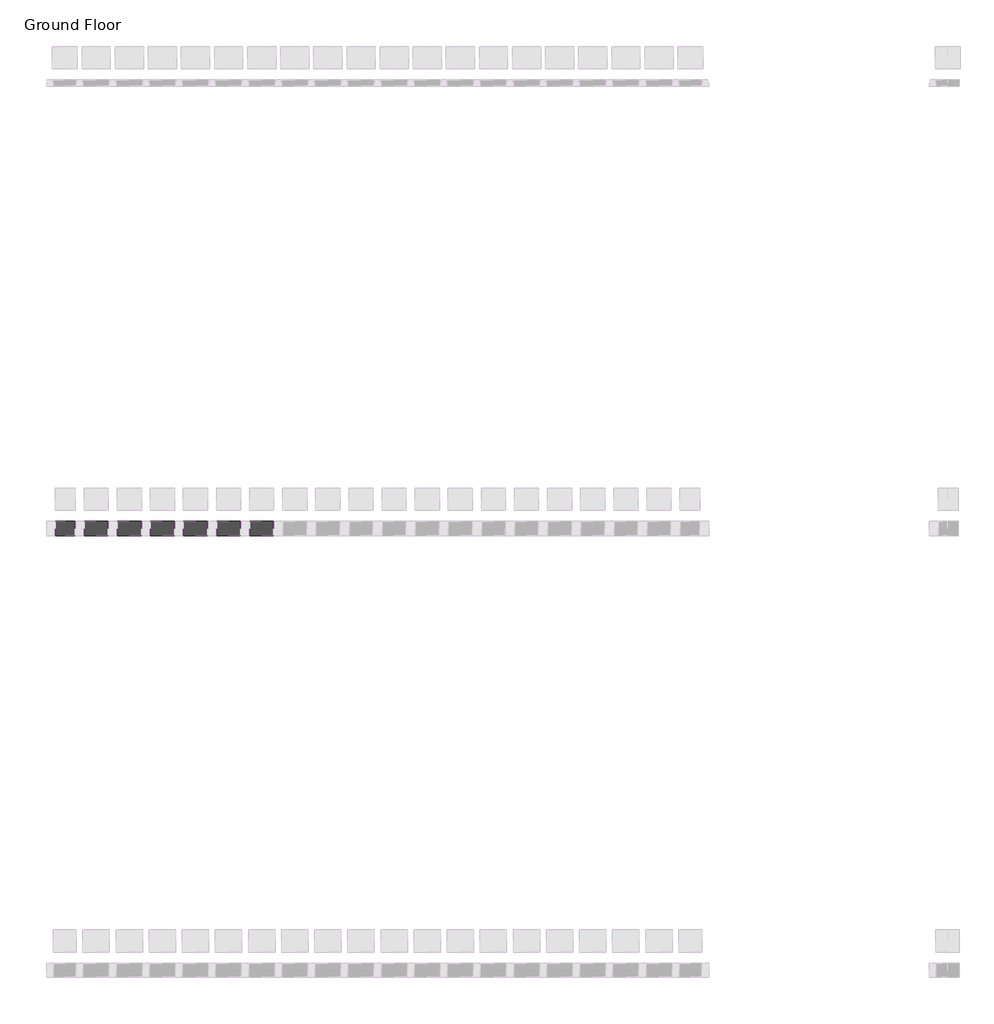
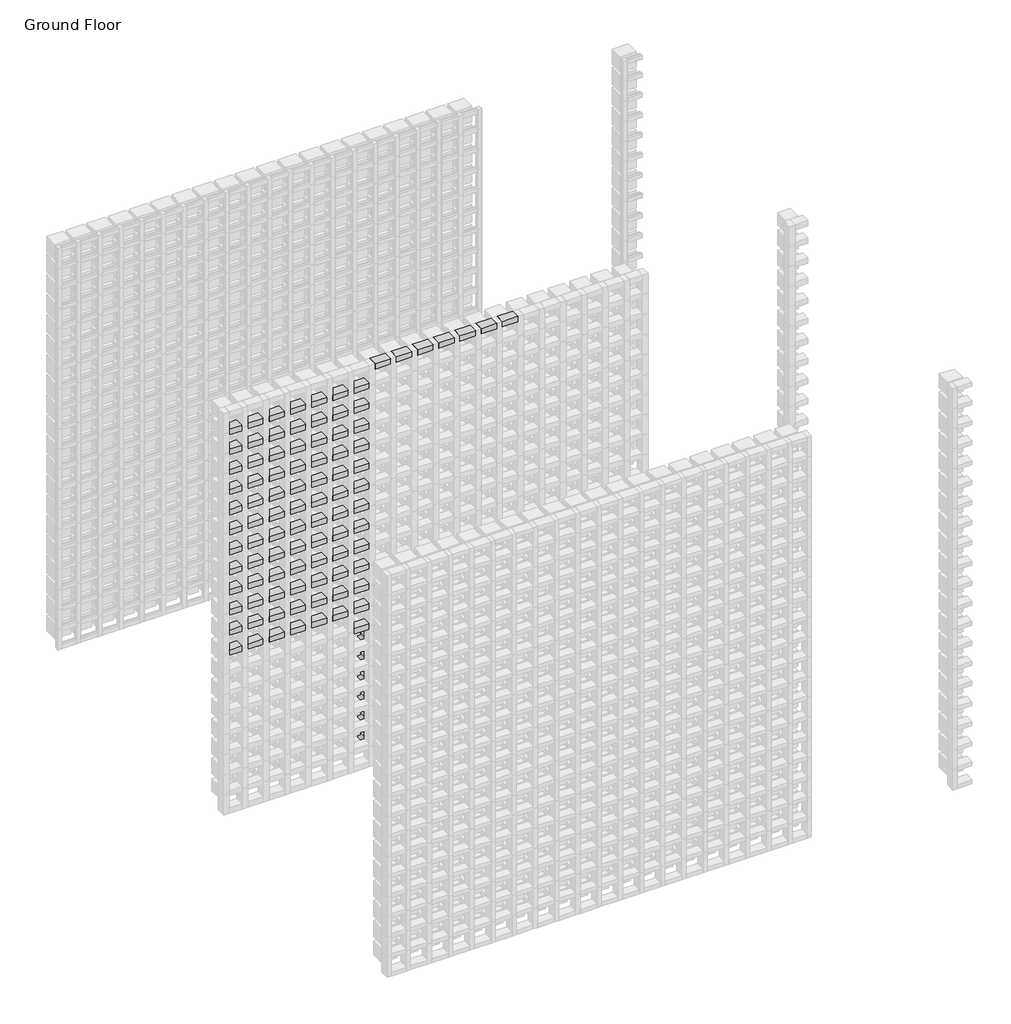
# One storey, part 82 of 350: 104 members, 38 plates.
"""IFC4 building model written with IfcOpenShell, lengths in millimetres."""

from ifc_helpers import new_model, si_unit, origin, place, context, project, spatial, transform, mapped, element, save
from components import rectangular_mullion_655930e9, rectangular_mullion_581565bb, rectangular_mullion_d5b82d3d, rectangular_mullion_0b6a8654, rectangular_mullion_97e353d0, empty_system_panel_empty_3b500fad, empty_system_panel_empty_1faefc6a

model = new_model("IFC4")

# Units and contexts
model_context = context("Model", 3, world=origin())
ifc_project = project(units=[si_unit("LENGTHUNIT", "METRE", prefix="MILLI")], contexts=[model_context])

# Site, building, storey
site = spatial("IfcSite", under=ifc_project)
building = spatial("IfcBuilding", under=site)
storey = spatial("IfcBuildingStorey", under=building, Name="Ground Floor", Elevation=0.0)

# Members
placement = place(None, origin())
rectangular_mullion_shape = rectangular_mullion_655930e9(model_context)
element("IfcMember", 1, ObjectType="Rectangular Mullion : Batten_Timber_Modinex_Austratus_Grid_Fascia_40x65_AlaskanYellowCedar", at=placement, inside=storey, context=model_context, shape_type="MappedRepresentation", body=[
    mapped(rectangular_mullion_shape, transform((3116.4361642, 40968.2978302, 0.0), x_axis=(1.0, 0.0, 0.0), y_axis=(0.0, -1.0, 0.0), z_axis=(0.0, 0.0, -1.0))),
])
element("IfcMember", 2, ObjectType="Rectangular Mullion : Batten_Timber_Modinex_Austratus_Grid_Fascia_40x65_AlaskanYellowCedar", at=placement, inside=storey, context=model_context, shape_type="MappedRepresentation", body=[
    mapped(rectangular_mullion_shape, transform((3266.4361642, 40968.2978302, 0.0), x_axis=(1.0, 0.0, 0.0), y_axis=(0.0, -1.0, 0.0), z_axis=(0.0, 0.0, -1.0))),
])
element("IfcMember", 3, ObjectType="Rectangular Mullion : Batten_Timber_Modinex_Austratus_Grid_Fascia_40x65_AlaskanYellowCedar", at=placement, inside=storey, context=model_context, shape_type="MappedRepresentation", body=[
    mapped(rectangular_mullion_shape, transform((3416.4361642, 40968.2978302, 0.0), x_axis=(1.0, 0.0, 0.0), y_axis=(0.0, -1.0, 0.0), z_axis=(0.0, 0.0, -1.0))),
])
element("IfcMember", 4, ObjectType="Rectangular Mullion : Batten_Timber_Modinex_Austratus_Grid_Fascia_40x65_AlaskanYellowCedar", at=placement, inside=storey, context=model_context, shape_type="MappedRepresentation", body=[
    mapped(rectangular_mullion_shape, transform((3566.4361642, 40968.2978302, 0.0), x_axis=(1.0, 0.0, 0.0), y_axis=(0.0, -1.0, 0.0), z_axis=(0.0, 0.0, -1.0))),
])
element("IfcMember", 5, ObjectType="Rectangular Mullion : Batten_Timber_Modinex_Austratus_Grid_Fascia_40x65_AlaskanYellowCedar", at=placement, inside=storey, context=model_context, shape_type="MappedRepresentation", body=[
    mapped(rectangular_mullion_shape, transform((3716.4361642, 40968.2978302, 0.0), x_axis=(1.0, 0.0, 0.0), y_axis=(0.0, -1.0, 0.0), z_axis=(0.0, 0.0, -1.0))),
])
element("IfcMember", 6, ObjectType="Rectangular Mullion : Batten_Timber_Modinex_Austratus_Grid_Fascia_40x65_AlaskanYellowCedar", at=placement, inside=storey, context=model_context, shape_type="MappedRepresentation", body=[
    mapped(rectangular_mullion_shape, transform((3866.4361642, 40968.2978302, 0.0), x_axis=(1.0, 0.0, 0.0), y_axis=(0.0, -1.0, 0.0), z_axis=(0.0, 0.0, -1.0))),
])
rectangular_mullion_2_shape = rectangular_mullion_581565bb(model_context)
element("IfcMember", 7, ObjectType="Rectangular Mullion : Batten_Timber_Modinex_Austratus_Grid_Fascia_40x65_AlaskanYellowCedar", at=placement, inside=storey, context=model_context, shape_type="MappedRepresentation", body=[
    mapped(rectangular_mullion_2_shape, transform((3096.4361642, 40968.2978302, 3000.0), x_axis=(0.0, 0.0, 1.0), y_axis=(0.0, -1.0, 0.0), z_axis=(1.0, 0.0, 0.0))),
])
element("IfcMember", 8, ObjectType="Rectangular Mullion : Batten_Timber_Modinex_Austratus_Grid_Fascia_40x65_AlaskanYellowCedar", at=placement, inside=storey, context=model_context, shape_type="MappedRepresentation", body=[
    mapped(rectangular_mullion_2_shape, transform((3246.4361642, 40968.2978302, 3000.0), x_axis=(0.0, 0.0, 1.0), y_axis=(0.0, -1.0, 0.0), z_axis=(1.0, 0.0, 0.0))),
])
element("IfcMember", 9, ObjectType="Rectangular Mullion : Batten_Timber_Modinex_Austratus_Grid_Fascia_40x65_AlaskanYellowCedar", at=placement, inside=storey, context=model_context, shape_type="MappedRepresentation", body=[
    mapped(rectangular_mullion_2_shape, transform((3396.4361642, 40968.2978302, 3000.0), x_axis=(0.0, 0.0, 1.0), y_axis=(0.0, -1.0, 0.0), z_axis=(1.0, 0.0, 0.0))),
])
element("IfcMember", 10, ObjectType="Rectangular Mullion : Batten_Timber_Modinex_Austratus_Grid_Fascia_40x65_AlaskanYellowCedar", at=placement, inside=storey, context=model_context, shape_type="MappedRepresentation", body=[
    mapped(rectangular_mullion_2_shape, transform((3546.4361642, 40968.2978302, 3000.0), x_axis=(0.0, 0.0, 1.0), y_axis=(0.0, -1.0, 0.0), z_axis=(1.0, 0.0, 0.0))),
])
element("IfcMember", 11, ObjectType="Rectangular Mullion : Batten_Timber_Modinex_Austratus_Grid_Fascia_40x65_AlaskanYellowCedar", at=placement, inside=storey, context=model_context, shape_type="MappedRepresentation", body=[
    mapped(rectangular_mullion_2_shape, transform((3696.4361642, 40968.2978302, 3000.0), x_axis=(0.0, 0.0, 1.0), y_axis=(0.0, -1.0, 0.0), z_axis=(1.0, 0.0, 0.0))),
])
element("IfcMember", 12, ObjectType="Rectangular Mullion : Batten_Timber_Modinex_Austratus_Grid_Fascia_40x65_AlaskanYellowCedar", at=placement, inside=storey, context=model_context, shape_type="MappedRepresentation", body=[
    mapped(rectangular_mullion_2_shape, transform((3846.4361642, 40968.2978302, 3000.0), x_axis=(0.0, 0.0, 1.0), y_axis=(0.0, -1.0, 0.0), z_axis=(1.0, 0.0, 0.0))),
])
element("IfcMember", 13, ObjectType="Rectangular Mullion : Batten_Timber_Modinex_Austratus_Grid_Fascia_40x65_AlaskanYellowCedar", at=placement, inside=storey, context=model_context, shape_type="MappedRepresentation", body=[
    mapped(rectangular_mullion_2_shape, transform((3996.4361642, 40968.2978302, 3000.0), x_axis=(0.0, 0.0, 1.0), y_axis=(0.0, -1.0, 0.0), z_axis=(1.0, 0.0, 0.0))),
])
rectangular_mullion_3_shape = rectangular_mullion_d5b82d3d(model_context)
element("IfcMember", 14, ObjectType="Rectangular Mullion : Batten_Timber_Modinex_Austratus_Grid_Fascia_40x65_AlaskanYellowCedar", at=placement, inside=storey, context=model_context, shape_type="MappedRepresentation", body=[
    mapped(rectangular_mullion_3_shape, transform((3136.4361642, 40968.2978302, 0.0), x_axis=(0.0, 0.0, -1.0), y_axis=(0.0, -1.0, 0.0), z_axis=(-1.0, 0.0, 0.0))),
])
element("IfcMember", 15, ObjectType="Rectangular Mullion : Batten_Timber_Modinex_Austratus_Grid_Fascia_40x65_AlaskanYellowCedar", at=placement, inside=storey, context=model_context, shape_type="MappedRepresentation", body=[
    mapped(rectangular_mullion_3_shape, transform((3286.4361642, 40968.2978302, 0.0), x_axis=(0.0, 0.0, -1.0), y_axis=(0.0, -1.0, 0.0), z_axis=(-1.0, 0.0, 0.0))),
])
element("IfcMember", 16, ObjectType="Rectangular Mullion : Batten_Timber_Modinex_Austratus_Grid_Fascia_40x65_AlaskanYellowCedar", at=placement, inside=storey, context=model_context, shape_type="MappedRepresentation", body=[
    mapped(rectangular_mullion_3_shape, transform((3436.4361642, 40968.2978302, 0.0), x_axis=(0.0, 0.0, -1.0), y_axis=(0.0, -1.0, 0.0), z_axis=(-1.0, 0.0, 0.0))),
])
element("IfcMember", 17, ObjectType="Rectangular Mullion : Batten_Timber_Modinex_Austratus_Grid_Fascia_40x65_AlaskanYellowCedar", at=placement, inside=storey, context=model_context, shape_type="MappedRepresentation", body=[
    mapped(rectangular_mullion_3_shape, transform((3586.4361642, 40968.2978302, 0.0), x_axis=(0.0, 0.0, -1.0), y_axis=(0.0, -1.0, 0.0), z_axis=(-1.0, 0.0, 0.0))),
])
element("IfcMember", 18, ObjectType="Rectangular Mullion : Batten_Timber_Modinex_Austratus_Grid_Fascia_40x65_AlaskanYellowCedar", at=placement, inside=storey, context=model_context, shape_type="MappedRepresentation", body=[
    mapped(rectangular_mullion_3_shape, transform((3736.4361642, 40968.2978302, 0.0), x_axis=(0.0, 0.0, -1.0), y_axis=(0.0, -1.0, 0.0), z_axis=(-1.0, 0.0, 0.0))),
])
element("IfcMember", 19, ObjectType="Rectangular Mullion : Batten_Timber_Modinex_Austratus_Grid_Fascia_40x65_AlaskanYellowCedar", at=placement, inside=storey, context=model_context, shape_type="MappedRepresentation", body=[
    mapped(rectangular_mullion_3_shape, transform((3886.4361642, 40968.2978302, 0.0), x_axis=(0.0, 0.0, -1.0), y_axis=(0.0, -1.0, 0.0), z_axis=(-1.0, 0.0, 0.0))),
])
rectangular_mullion_4_shape = rectangular_mullion_0b6a8654(model_context)
element("IfcMember", 20, ObjectType="Rectangular Mullion : Batten_Timber_Modinex_Austratus_Grid_Fascia_40x65_AlaskanYellowCedar", at=placement, inside=storey, context=model_context, shape_type="MappedRepresentation", body=[
    mapped(rectangular_mullion_4_shape, transform((2046.4361642, 40968.2978302, 1200.0), x_axis=(0.0, 0.0, 1.0), y_axis=(0.0, -1.0, 0.0), z_axis=(1.0, 0.0, 0.0))),
])
element("IfcMember", 21, ObjectType="Rectangular Mullion : Batten_Timber_Modinex_Austratus_Grid_Fascia_40x65_AlaskanYellowCedar", at=placement, inside=storey, context=model_context, shape_type="MappedRepresentation", body=[
    mapped(rectangular_mullion_4_shape, transform((2046.4361642, 40968.2978302, 1350.0), x_axis=(0.0, 0.0, 1.0), y_axis=(0.0, -1.0, 0.0), z_axis=(1.0, 0.0, 0.0))),
])
element("IfcMember", 22, ObjectType="Rectangular Mullion : Batten_Timber_Modinex_Austratus_Grid_Fascia_40x65_AlaskanYellowCedar", at=placement, inside=storey, context=model_context, shape_type="MappedRepresentation", body=[
    mapped(rectangular_mullion_4_shape, transform((2046.4361642, 40968.2978302, 1500.0), x_axis=(0.0, 0.0, 1.0), y_axis=(0.0, -1.0, 0.0), z_axis=(1.0, 0.0, 0.0))),
])
element("IfcMember", 23, ObjectType="Rectangular Mullion : Batten_Timber_Modinex_Austratus_Grid_Fascia_40x65_AlaskanYellowCedar", at=placement, inside=storey, context=model_context, shape_type="MappedRepresentation", body=[
    mapped(rectangular_mullion_4_shape, transform((2046.4361642, 40968.2978302, 1650.0), x_axis=(0.0, 0.0, 1.0), y_axis=(0.0, -1.0, 0.0), z_axis=(1.0, 0.0, 0.0))),
])
element("IfcMember", 24, ObjectType="Rectangular Mullion : Batten_Timber_Modinex_Austratus_Grid_Fascia_40x65_AlaskanYellowCedar", at=placement, inside=storey, context=model_context, shape_type="MappedRepresentation", body=[
    mapped(rectangular_mullion_4_shape, transform((2046.4361642, 40968.2978302, 1800.0), x_axis=(0.0, 0.0, 1.0), y_axis=(0.0, -1.0, 0.0), z_axis=(1.0, 0.0, 0.0))),
])
element("IfcMember", 25, ObjectType="Rectangular Mullion : Batten_Timber_Modinex_Austratus_Grid_Fascia_40x65_AlaskanYellowCedar", at=placement, inside=storey, context=model_context, shape_type="MappedRepresentation", body=[
    mapped(rectangular_mullion_4_shape, transform((2046.4361642, 40968.2978302, 1950.0), x_axis=(0.0, 0.0, 1.0), y_axis=(0.0, -1.0, 0.0), z_axis=(1.0, 0.0, 0.0))),
])
element("IfcMember", 26, ObjectType="Rectangular Mullion : Batten_Timber_Modinex_Austratus_Grid_Fascia_40x65_AlaskanYellowCedar", at=placement, inside=storey, context=model_context, shape_type="MappedRepresentation", body=[
    mapped(rectangular_mullion_4_shape, transform((2046.4361642, 40968.2978302, 2100.0), x_axis=(0.0, 0.0, 1.0), y_axis=(0.0, -1.0, 0.0), z_axis=(1.0, 0.0, 0.0))),
])
element("IfcMember", 27, ObjectType="Rectangular Mullion : Batten_Timber_Modinex_Austratus_Grid_Fascia_40x65_AlaskanYellowCedar", at=placement, inside=storey, context=model_context, shape_type="MappedRepresentation", body=[
    mapped(rectangular_mullion_4_shape, transform((2046.4361642, 40968.2978302, 2250.0), x_axis=(0.0, 0.0, 1.0), y_axis=(0.0, -1.0, 0.0), z_axis=(1.0, 0.0, 0.0))),
])
element("IfcMember", 28, ObjectType="Rectangular Mullion : Batten_Timber_Modinex_Austratus_Grid_Fascia_40x65_AlaskanYellowCedar", at=placement, inside=storey, context=model_context, shape_type="MappedRepresentation", body=[
    mapped(rectangular_mullion_4_shape, transform((2046.4361642, 40968.2978302, 2400.0), x_axis=(0.0, 0.0, 1.0), y_axis=(0.0, -1.0, 0.0), z_axis=(1.0, 0.0, 0.0))),
])
element("IfcMember", 29, ObjectType="Rectangular Mullion : Batten_Timber_Modinex_Austratus_Grid_Fascia_40x65_AlaskanYellowCedar", at=placement, inside=storey, context=model_context, shape_type="MappedRepresentation", body=[
    mapped(rectangular_mullion_4_shape, transform((2046.4361642, 40968.2978302, 2550.0), x_axis=(0.0, 0.0, 1.0), y_axis=(0.0, -1.0, 0.0), z_axis=(1.0, 0.0, 0.0))),
])
element("IfcMember", 30, ObjectType="Rectangular Mullion : Batten_Timber_Modinex_Austratus_Grid_Fascia_40x65_AlaskanYellowCedar", at=placement, inside=storey, context=model_context, shape_type="MappedRepresentation", body=[
    mapped(rectangular_mullion_4_shape, transform((2046.4361642, 40968.2978302, 2700.0), x_axis=(0.0, 0.0, 1.0), y_axis=(0.0, -1.0, 0.0), z_axis=(1.0, 0.0, 0.0))),
])
element("IfcMember", 31, ObjectType="Rectangular Mullion : Batten_Timber_Modinex_Austratus_Grid_Fascia_40x65_AlaskanYellowCedar", at=placement, inside=storey, context=model_context, shape_type="MappedRepresentation", body=[
    mapped(rectangular_mullion_4_shape, transform((2046.4361642, 40968.2978302, 2850.0), x_axis=(0.0, 0.0, 1.0), y_axis=(0.0, -1.0, 0.0), z_axis=(1.0, 0.0, 0.0))),
])
rectangular_mullion_5_shape = rectangular_mullion_97e353d0(model_context)
element("IfcMember", 32, ObjectType="Rectangular Mullion : Batten_Timber_Modinex_Austratus_Grid_Fascia_40x65_AlaskanYellowCedar", at=placement, inside=storey, context=model_context, shape_type="MappedRepresentation", body=[
    mapped(rectangular_mullion_5_shape, transform((2946.4361642, 40968.2978302, 1050.0), x_axis=(0.0, 0.0, 1.0), y_axis=(0.0, -1.0, 0.0), z_axis=(1.0, 0.0, 0.0))),
])
element("IfcMember", 33, ObjectType="Rectangular Mullion : Batten_Timber_Modinex_Austratus_Grid_Fascia_40x65_AlaskanYellowCedar", at=placement, inside=storey, context=model_context, shape_type="MappedRepresentation", body=[
    mapped(rectangular_mullion_5_shape, transform((2196.4361642, 40968.2978302, 1200.0), x_axis=(0.0, 0.0, 1.0), y_axis=(0.0, -1.0, 0.0), z_axis=(1.0, 0.0, 0.0))),
])
element("IfcMember", 34, ObjectType="Rectangular Mullion : Batten_Timber_Modinex_Austratus_Grid_Fascia_40x65_AlaskanYellowCedar", at=placement, inside=storey, context=model_context, shape_type="MappedRepresentation", body=[
    mapped(rectangular_mullion_5_shape, transform((2346.4361642, 40968.2978302, 1200.0), x_axis=(0.0, 0.0, 1.0), y_axis=(0.0, -1.0, 0.0), z_axis=(1.0, 0.0, 0.0))),
])
element("IfcMember", 35, ObjectType="Rectangular Mullion : Batten_Timber_Modinex_Austratus_Grid_Fascia_40x65_AlaskanYellowCedar", at=placement, inside=storey, context=model_context, shape_type="MappedRepresentation", body=[
    mapped(rectangular_mullion_5_shape, transform((2496.4361642, 40968.2978302, 1200.0), x_axis=(0.0, 0.0, 1.0), y_axis=(0.0, -1.0, 0.0), z_axis=(1.0, 0.0, 0.0))),
])
element("IfcMember", 36, ObjectType="Rectangular Mullion : Batten_Timber_Modinex_Austratus_Grid_Fascia_40x65_AlaskanYellowCedar", at=placement, inside=storey, context=model_context, shape_type="MappedRepresentation", body=[
    mapped(rectangular_mullion_5_shape, transform((2646.4361642, 40968.2978302, 1200.0), x_axis=(0.0, 0.0, 1.0), y_axis=(0.0, -1.0, 0.0), z_axis=(1.0, 0.0, 0.0))),
])
element("IfcMember", 37, ObjectType="Rectangular Mullion : Batten_Timber_Modinex_Austratus_Grid_Fascia_40x65_AlaskanYellowCedar", at=placement, inside=storey, context=model_context, shape_type="MappedRepresentation", body=[
    mapped(rectangular_mullion_5_shape, transform((2796.4361642, 40968.2978302, 1200.0), x_axis=(0.0, 0.0, 1.0), y_axis=(0.0, -1.0, 0.0), z_axis=(1.0, 0.0, 0.0))),
])
element("IfcMember", 38, ObjectType="Rectangular Mullion : Batten_Timber_Modinex_Austratus_Grid_Fascia_40x65_AlaskanYellowCedar", at=placement, inside=storey, context=model_context, shape_type="MappedRepresentation", body=[
    mapped(rectangular_mullion_5_shape, transform((2946.4361642, 40968.2978302, 1200.0), x_axis=(0.0, 0.0, 1.0), y_axis=(0.0, -1.0, 0.0), z_axis=(1.0, 0.0, 0.0))),
])
element("IfcMember", 39, ObjectType="Rectangular Mullion : Batten_Timber_Modinex_Austratus_Grid_Fascia_40x65_AlaskanYellowCedar", at=placement, inside=storey, context=model_context, shape_type="MappedRepresentation", body=[
    mapped(rectangular_mullion_5_shape, transform((2196.4361642, 40968.2978302, 1350.0), x_axis=(0.0, 0.0, 1.0), y_axis=(0.0, -1.0, 0.0), z_axis=(1.0, 0.0, 0.0))),
])
element("IfcMember", 40, ObjectType="Rectangular Mullion : Batten_Timber_Modinex_Austratus_Grid_Fascia_40x65_AlaskanYellowCedar", at=placement, inside=storey, context=model_context, shape_type="MappedRepresentation", body=[
    mapped(rectangular_mullion_5_shape, transform((2346.4361642, 40968.2978302, 1350.0), x_axis=(0.0, 0.0, 1.0), y_axis=(0.0, -1.0, 0.0), z_axis=(1.0, 0.0, 0.0))),
])
element("IfcMember", 41, ObjectType="Rectangular Mullion : Batten_Timber_Modinex_Austratus_Grid_Fascia_40x65_AlaskanYellowCedar", at=placement, inside=storey, context=model_context, shape_type="MappedRepresentation", body=[
    mapped(rectangular_mullion_5_shape, transform((2496.4361642, 40968.2978302, 1350.0), x_axis=(0.0, 0.0, 1.0), y_axis=(0.0, -1.0, 0.0), z_axis=(1.0, 0.0, 0.0))),
])
element("IfcMember", 42, ObjectType="Rectangular Mullion : Batten_Timber_Modinex_Austratus_Grid_Fascia_40x65_AlaskanYellowCedar", at=placement, inside=storey, context=model_context, shape_type="MappedRepresentation", body=[
    mapped(rectangular_mullion_5_shape, transform((2646.4361642, 40968.2978302, 1350.0), x_axis=(0.0, 0.0, 1.0), y_axis=(0.0, -1.0, 0.0), z_axis=(1.0, 0.0, 0.0))),
])
element("IfcMember", 43, ObjectType="Rectangular Mullion : Batten_Timber_Modinex_Austratus_Grid_Fascia_40x65_AlaskanYellowCedar", at=placement, inside=storey, context=model_context, shape_type="MappedRepresentation", body=[
    mapped(rectangular_mullion_5_shape, transform((2796.4361642, 40968.2978302, 1350.0), x_axis=(0.0, 0.0, 1.0), y_axis=(0.0, -1.0, 0.0), z_axis=(1.0, 0.0, 0.0))),
])
element("IfcMember", 44, ObjectType="Rectangular Mullion : Batten_Timber_Modinex_Austratus_Grid_Fascia_40x65_AlaskanYellowCedar", at=placement, inside=storey, context=model_context, shape_type="MappedRepresentation", body=[
    mapped(rectangular_mullion_5_shape, transform((2946.4361642, 40968.2978302, 1350.0), x_axis=(0.0, 0.0, 1.0), y_axis=(0.0, -1.0, 0.0), z_axis=(1.0, 0.0, 0.0))),
])
element("IfcMember", 45, ObjectType="Rectangular Mullion : Batten_Timber_Modinex_Austratus_Grid_Fascia_40x65_AlaskanYellowCedar", at=placement, inside=storey, context=model_context, shape_type="MappedRepresentation", body=[
    mapped(rectangular_mullion_5_shape, transform((2196.4361642, 40968.2978302, 1500.0), x_axis=(0.0, 0.0, 1.0), y_axis=(0.0, -1.0, 0.0), z_axis=(1.0, 0.0, 0.0))),
])
element("IfcMember", 46, ObjectType="Rectangular Mullion : Batten_Timber_Modinex_Austratus_Grid_Fascia_40x65_AlaskanYellowCedar", at=placement, inside=storey, context=model_context, shape_type="MappedRepresentation", body=[
    mapped(rectangular_mullion_5_shape, transform((2346.4361642, 40968.2978302, 1500.0), x_axis=(0.0, 0.0, 1.0), y_axis=(0.0, -1.0, 0.0), z_axis=(1.0, 0.0, 0.0))),
])
element("IfcMember", 47, ObjectType="Rectangular Mullion : Batten_Timber_Modinex_Austratus_Grid_Fascia_40x65_AlaskanYellowCedar", at=placement, inside=storey, context=model_context, shape_type="MappedRepresentation", body=[
    mapped(rectangular_mullion_5_shape, transform((2496.4361642, 40968.2978302, 1500.0), x_axis=(0.0, 0.0, 1.0), y_axis=(0.0, -1.0, 0.0), z_axis=(1.0, 0.0, 0.0))),
])
element("IfcMember", 48, ObjectType="Rectangular Mullion : Batten_Timber_Modinex_Austratus_Grid_Fascia_40x65_AlaskanYellowCedar", at=placement, inside=storey, context=model_context, shape_type="MappedRepresentation", body=[
    mapped(rectangular_mullion_5_shape, transform((2646.4361642, 40968.2978302, 1500.0), x_axis=(0.0, 0.0, 1.0), y_axis=(0.0, -1.0, 0.0), z_axis=(1.0, 0.0, 0.0))),
])
element("IfcMember", 49, ObjectType="Rectangular Mullion : Batten_Timber_Modinex_Austratus_Grid_Fascia_40x65_AlaskanYellowCedar", at=placement, inside=storey, context=model_context, shape_type="MappedRepresentation", body=[
    mapped(rectangular_mullion_5_shape, transform((2796.4361642, 40968.2978302, 1500.0), x_axis=(0.0, 0.0, 1.0), y_axis=(0.0, -1.0, 0.0), z_axis=(1.0, 0.0, 0.0))),
])
element("IfcMember", 50, ObjectType="Rectangular Mullion : Batten_Timber_Modinex_Austratus_Grid_Fascia_40x65_AlaskanYellowCedar", at=placement, inside=storey, context=model_context, shape_type="MappedRepresentation", body=[
    mapped(rectangular_mullion_5_shape, transform((2946.4361642, 40968.2978302, 1500.0), x_axis=(0.0, 0.0, 1.0), y_axis=(0.0, -1.0, 0.0), z_axis=(1.0, 0.0, 0.0))),
])
element("IfcMember", 51, ObjectType="Rectangular Mullion : Batten_Timber_Modinex_Austratus_Grid_Fascia_40x65_AlaskanYellowCedar", at=placement, inside=storey, context=model_context, shape_type="MappedRepresentation", body=[
    mapped(rectangular_mullion_5_shape, transform((2196.4361642, 40968.2978302, 1650.0), x_axis=(0.0, 0.0, 1.0), y_axis=(0.0, -1.0, 0.0), z_axis=(1.0, 0.0, 0.0))),
])
element("IfcMember", 52, ObjectType="Rectangular Mullion : Batten_Timber_Modinex_Austratus_Grid_Fascia_40x65_AlaskanYellowCedar", at=placement, inside=storey, context=model_context, shape_type="MappedRepresentation", body=[
    mapped(rectangular_mullion_5_shape, transform((2346.4361642, 40968.2978302, 1650.0), x_axis=(0.0, 0.0, 1.0), y_axis=(0.0, -1.0, 0.0), z_axis=(1.0, 0.0, 0.0))),
])
element("IfcMember", 53, ObjectType="Rectangular Mullion : Batten_Timber_Modinex_Austratus_Grid_Fascia_40x65_AlaskanYellowCedar", at=placement, inside=storey, context=model_context, shape_type="MappedRepresentation", body=[
    mapped(rectangular_mullion_5_shape, transform((2496.4361642, 40968.2978302, 1650.0), x_axis=(0.0, 0.0, 1.0), y_axis=(0.0, -1.0, 0.0), z_axis=(1.0, 0.0, 0.0))),
])
element("IfcMember", 54, ObjectType="Rectangular Mullion : Batten_Timber_Modinex_Austratus_Grid_Fascia_40x65_AlaskanYellowCedar", at=placement, inside=storey, context=model_context, shape_type="MappedRepresentation", body=[
    mapped(rectangular_mullion_5_shape, transform((2646.4361642, 40968.2978302, 1650.0), x_axis=(0.0, 0.0, 1.0), y_axis=(0.0, -1.0, 0.0), z_axis=(1.0, 0.0, 0.0))),
])
element("IfcMember", 55, ObjectType="Rectangular Mullion : Batten_Timber_Modinex_Austratus_Grid_Fascia_40x65_AlaskanYellowCedar", at=placement, inside=storey, context=model_context, shape_type="MappedRepresentation", body=[
    mapped(rectangular_mullion_5_shape, transform((2796.4361642, 40968.2978302, 1650.0), x_axis=(0.0, 0.0, 1.0), y_axis=(0.0, -1.0, 0.0), z_axis=(1.0, 0.0, 0.0))),
])
element("IfcMember", 56, ObjectType="Rectangular Mullion : Batten_Timber_Modinex_Austratus_Grid_Fascia_40x65_AlaskanYellowCedar", at=placement, inside=storey, context=model_context, shape_type="MappedRepresentation", body=[
    mapped(rectangular_mullion_5_shape, transform((2946.4361642, 40968.2978302, 1650.0), x_axis=(0.0, 0.0, 1.0), y_axis=(0.0, -1.0, 0.0), z_axis=(1.0, 0.0, 0.0))),
])
element("IfcMember", 57, ObjectType="Rectangular Mullion : Batten_Timber_Modinex_Austratus_Grid_Fascia_40x65_AlaskanYellowCedar", at=placement, inside=storey, context=model_context, shape_type="MappedRepresentation", body=[
    mapped(rectangular_mullion_5_shape, transform((2196.4361642, 40968.2978302, 1800.0), x_axis=(0.0, 0.0, 1.0), y_axis=(0.0, -1.0, 0.0), z_axis=(1.0, 0.0, 0.0))),
])
element("IfcMember", 58, ObjectType="Rectangular Mullion : Batten_Timber_Modinex_Austratus_Grid_Fascia_40x65_AlaskanYellowCedar", at=placement, inside=storey, context=model_context, shape_type="MappedRepresentation", body=[
    mapped(rectangular_mullion_5_shape, transform((2346.4361642, 40968.2978302, 1800.0), x_axis=(0.0, 0.0, 1.0), y_axis=(0.0, -1.0, 0.0), z_axis=(1.0, 0.0, 0.0))),
])
element("IfcMember", 59, ObjectType="Rectangular Mullion : Batten_Timber_Modinex_Austratus_Grid_Fascia_40x65_AlaskanYellowCedar", at=placement, inside=storey, context=model_context, shape_type="MappedRepresentation", body=[
    mapped(rectangular_mullion_5_shape, transform((2496.4361642, 40968.2978302, 1800.0), x_axis=(0.0, 0.0, 1.0), y_axis=(0.0, -1.0, 0.0), z_axis=(1.0, 0.0, 0.0))),
])
element("IfcMember", 60, ObjectType="Rectangular Mullion : Batten_Timber_Modinex_Austratus_Grid_Fascia_40x65_AlaskanYellowCedar", at=placement, inside=storey, context=model_context, shape_type="MappedRepresentation", body=[
    mapped(rectangular_mullion_5_shape, transform((2646.4361642, 40968.2978302, 1800.0), x_axis=(0.0, 0.0, 1.0), y_axis=(0.0, -1.0, 0.0), z_axis=(1.0, 0.0, 0.0))),
])
element("IfcMember", 61, ObjectType="Rectangular Mullion : Batten_Timber_Modinex_Austratus_Grid_Fascia_40x65_AlaskanYellowCedar", at=placement, inside=storey, context=model_context, shape_type="MappedRepresentation", body=[
    mapped(rectangular_mullion_5_shape, transform((2796.4361642, 40968.2978302, 1800.0), x_axis=(0.0, 0.0, 1.0), y_axis=(0.0, -1.0, 0.0), z_axis=(1.0, 0.0, 0.0))),
])
element("IfcMember", 62, ObjectType="Rectangular Mullion : Batten_Timber_Modinex_Austratus_Grid_Fascia_40x65_AlaskanYellowCedar", at=placement, inside=storey, context=model_context, shape_type="MappedRepresentation", body=[
    mapped(rectangular_mullion_5_shape, transform((2946.4361642, 40968.2978302, 1800.0), x_axis=(0.0, 0.0, 1.0), y_axis=(0.0, -1.0, 0.0), z_axis=(1.0, 0.0, 0.0))),
])
element("IfcMember", 63, ObjectType="Rectangular Mullion : Batten_Timber_Modinex_Austratus_Grid_Fascia_40x65_AlaskanYellowCedar", at=placement, inside=storey, context=model_context, shape_type="MappedRepresentation", body=[
    mapped(rectangular_mullion_5_shape, transform((2196.4361642, 40968.2978302, 1950.0), x_axis=(0.0, 0.0, 1.0), y_axis=(0.0, -1.0, 0.0), z_axis=(1.0, 0.0, 0.0))),
])
element("IfcMember", 64, ObjectType="Rectangular Mullion : Batten_Timber_Modinex_Austratus_Grid_Fascia_40x65_AlaskanYellowCedar", at=placement, inside=storey, context=model_context, shape_type="MappedRepresentation", body=[
    mapped(rectangular_mullion_5_shape, transform((2346.4361642, 40968.2978302, 1950.0), x_axis=(0.0, 0.0, 1.0), y_axis=(0.0, -1.0, 0.0), z_axis=(1.0, 0.0, 0.0))),
])
element("IfcMember", 65, ObjectType="Rectangular Mullion : Batten_Timber_Modinex_Austratus_Grid_Fascia_40x65_AlaskanYellowCedar", at=placement, inside=storey, context=model_context, shape_type="MappedRepresentation", body=[
    mapped(rectangular_mullion_5_shape, transform((2496.4361642, 40968.2978302, 1950.0), x_axis=(0.0, 0.0, 1.0), y_axis=(0.0, -1.0, 0.0), z_axis=(1.0, 0.0, 0.0))),
])
element("IfcMember", 66, ObjectType="Rectangular Mullion : Batten_Timber_Modinex_Austratus_Grid_Fascia_40x65_AlaskanYellowCedar", at=placement, inside=storey, context=model_context, shape_type="MappedRepresentation", body=[
    mapped(rectangular_mullion_5_shape, transform((2646.4361642, 40968.2978302, 1950.0), x_axis=(0.0, 0.0, 1.0), y_axis=(0.0, -1.0, 0.0), z_axis=(1.0, 0.0, 0.0))),
])
element("IfcMember", 67, ObjectType="Rectangular Mullion : Batten_Timber_Modinex_Austratus_Grid_Fascia_40x65_AlaskanYellowCedar", at=placement, inside=storey, context=model_context, shape_type="MappedRepresentation", body=[
    mapped(rectangular_mullion_5_shape, transform((2796.4361642, 40968.2978302, 1950.0), x_axis=(0.0, 0.0, 1.0), y_axis=(0.0, -1.0, 0.0), z_axis=(1.0, 0.0, 0.0))),
])
element("IfcMember", 68, ObjectType="Rectangular Mullion : Batten_Timber_Modinex_Austratus_Grid_Fascia_40x65_AlaskanYellowCedar", at=placement, inside=storey, context=model_context, shape_type="MappedRepresentation", body=[
    mapped(rectangular_mullion_5_shape, transform((2946.4361642, 40968.2978302, 1950.0), x_axis=(0.0, 0.0, 1.0), y_axis=(0.0, -1.0, 0.0), z_axis=(1.0, 0.0, 0.0))),
])
element("IfcMember", 69, ObjectType="Rectangular Mullion : Batten_Timber_Modinex_Austratus_Grid_Fascia_40x65_AlaskanYellowCedar", at=placement, inside=storey, context=model_context, shape_type="MappedRepresentation", body=[
    mapped(rectangular_mullion_5_shape, transform((2196.4361642, 40968.2978302, 2100.0), x_axis=(0.0, 0.0, 1.0), y_axis=(0.0, -1.0, 0.0), z_axis=(1.0, 0.0, 0.0))),
])
element("IfcMember", 70, ObjectType="Rectangular Mullion : Batten_Timber_Modinex_Austratus_Grid_Fascia_40x65_AlaskanYellowCedar", at=placement, inside=storey, context=model_context, shape_type="MappedRepresentation", body=[
    mapped(rectangular_mullion_5_shape, transform((2346.4361642, 40968.2978302, 2100.0), x_axis=(0.0, 0.0, 1.0), y_axis=(0.0, -1.0, 0.0), z_axis=(1.0, 0.0, 0.0))),
])
element("IfcMember", 71, ObjectType="Rectangular Mullion : Batten_Timber_Modinex_Austratus_Grid_Fascia_40x65_AlaskanYellowCedar", at=placement, inside=storey, context=model_context, shape_type="MappedRepresentation", body=[
    mapped(rectangular_mullion_5_shape, transform((2496.4361642, 40968.2978302, 2100.0), x_axis=(0.0, 0.0, 1.0), y_axis=(0.0, -1.0, 0.0), z_axis=(1.0, 0.0, 0.0))),
])
element("IfcMember", 72, ObjectType="Rectangular Mullion : Batten_Timber_Modinex_Austratus_Grid_Fascia_40x65_AlaskanYellowCedar", at=placement, inside=storey, context=model_context, shape_type="MappedRepresentation", body=[
    mapped(rectangular_mullion_5_shape, transform((2646.4361642, 40968.2978302, 2100.0), x_axis=(0.0, 0.0, 1.0), y_axis=(0.0, -1.0, 0.0), z_axis=(1.0, 0.0, 0.0))),
])
element("IfcMember", 73, ObjectType="Rectangular Mullion : Batten_Timber_Modinex_Austratus_Grid_Fascia_40x65_AlaskanYellowCedar", at=placement, inside=storey, context=model_context, shape_type="MappedRepresentation", body=[
    mapped(rectangular_mullion_5_shape, transform((2796.4361642, 40968.2978302, 2100.0), x_axis=(0.0, 0.0, 1.0), y_axis=(0.0, -1.0, 0.0), z_axis=(1.0, 0.0, 0.0))),
])
element("IfcMember", 74, ObjectType="Rectangular Mullion : Batten_Timber_Modinex_Austratus_Grid_Fascia_40x65_AlaskanYellowCedar", at=placement, inside=storey, context=model_context, shape_type="MappedRepresentation", body=[
    mapped(rectangular_mullion_5_shape, transform((2946.4361642, 40968.2978302, 2100.0), x_axis=(0.0, 0.0, 1.0), y_axis=(0.0, -1.0, 0.0), z_axis=(1.0, 0.0, 0.0))),
])
element("IfcMember", 75, ObjectType="Rectangular Mullion : Batten_Timber_Modinex_Austratus_Grid_Fascia_40x65_AlaskanYellowCedar", at=placement, inside=storey, context=model_context, shape_type="MappedRepresentation", body=[
    mapped(rectangular_mullion_5_shape, transform((2196.4361642, 40968.2978302, 2250.0), x_axis=(0.0, 0.0, 1.0), y_axis=(0.0, -1.0, 0.0), z_axis=(1.0, 0.0, 0.0))),
])
element("IfcMember", 76, ObjectType="Rectangular Mullion : Batten_Timber_Modinex_Austratus_Grid_Fascia_40x65_AlaskanYellowCedar", at=placement, inside=storey, context=model_context, shape_type="MappedRepresentation", body=[
    mapped(rectangular_mullion_5_shape, transform((2346.4361642, 40968.2978302, 2250.0), x_axis=(0.0, 0.0, 1.0), y_axis=(0.0, -1.0, 0.0), z_axis=(1.0, 0.0, 0.0))),
])
element("IfcMember", 77, ObjectType="Rectangular Mullion : Batten_Timber_Modinex_Austratus_Grid_Fascia_40x65_AlaskanYellowCedar", at=placement, inside=storey, context=model_context, shape_type="MappedRepresentation", body=[
    mapped(rectangular_mullion_5_shape, transform((2496.4361642, 40968.2978302, 2250.0), x_axis=(0.0, 0.0, 1.0), y_axis=(0.0, -1.0, 0.0), z_axis=(1.0, 0.0, 0.0))),
])
element("IfcMember", 78, ObjectType="Rectangular Mullion : Batten_Timber_Modinex_Austratus_Grid_Fascia_40x65_AlaskanYellowCedar", at=placement, inside=storey, context=model_context, shape_type="MappedRepresentation", body=[
    mapped(rectangular_mullion_5_shape, transform((2646.4361642, 40968.2978302, 2250.0), x_axis=(0.0, 0.0, 1.0), y_axis=(0.0, -1.0, 0.0), z_axis=(1.0, 0.0, 0.0))),
])
element("IfcMember", 79, ObjectType="Rectangular Mullion : Batten_Timber_Modinex_Austratus_Grid_Fascia_40x65_AlaskanYellowCedar", at=placement, inside=storey, context=model_context, shape_type="MappedRepresentation", body=[
    mapped(rectangular_mullion_5_shape, transform((2796.4361642, 40968.2978302, 2250.0), x_axis=(0.0, 0.0, 1.0), y_axis=(0.0, -1.0, 0.0), z_axis=(1.0, 0.0, 0.0))),
])
element("IfcMember", 80, ObjectType="Rectangular Mullion : Batten_Timber_Modinex_Austratus_Grid_Fascia_40x65_AlaskanYellowCedar", at=placement, inside=storey, context=model_context, shape_type="MappedRepresentation", body=[
    mapped(rectangular_mullion_5_shape, transform((2946.4361642, 40968.2978302, 2250.0), x_axis=(0.0, 0.0, 1.0), y_axis=(0.0, -1.0, 0.0), z_axis=(1.0, 0.0, 0.0))),
])
element("IfcMember", 81, ObjectType="Rectangular Mullion : Batten_Timber_Modinex_Austratus_Grid_Fascia_40x65_AlaskanYellowCedar", at=placement, inside=storey, context=model_context, shape_type="MappedRepresentation", body=[
    mapped(rectangular_mullion_5_shape, transform((2196.4361642, 40968.2978302, 2400.0), x_axis=(0.0, 0.0, 1.0), y_axis=(0.0, -1.0, 0.0), z_axis=(1.0, 0.0, 0.0))),
])
element("IfcMember", 82, ObjectType="Rectangular Mullion : Batten_Timber_Modinex_Austratus_Grid_Fascia_40x65_AlaskanYellowCedar", at=placement, inside=storey, context=model_context, shape_type="MappedRepresentation", body=[
    mapped(rectangular_mullion_5_shape, transform((2346.4361642, 40968.2978302, 2400.0), x_axis=(0.0, 0.0, 1.0), y_axis=(0.0, -1.0, 0.0), z_axis=(1.0, 0.0, 0.0))),
])
element("IfcMember", 83, ObjectType="Rectangular Mullion : Batten_Timber_Modinex_Austratus_Grid_Fascia_40x65_AlaskanYellowCedar", at=placement, inside=storey, context=model_context, shape_type="MappedRepresentation", body=[
    mapped(rectangular_mullion_5_shape, transform((2496.4361642, 40968.2978302, 2400.0), x_axis=(0.0, 0.0, 1.0), y_axis=(0.0, -1.0, 0.0), z_axis=(1.0, 0.0, 0.0))),
])
element("IfcMember", 84, ObjectType="Rectangular Mullion : Batten_Timber_Modinex_Austratus_Grid_Fascia_40x65_AlaskanYellowCedar", at=placement, inside=storey, context=model_context, shape_type="MappedRepresentation", body=[
    mapped(rectangular_mullion_5_shape, transform((2646.4361642, 40968.2978302, 2400.0), x_axis=(0.0, 0.0, 1.0), y_axis=(0.0, -1.0, 0.0), z_axis=(1.0, 0.0, 0.0))),
])
element("IfcMember", 85, ObjectType="Rectangular Mullion : Batten_Timber_Modinex_Austratus_Grid_Fascia_40x65_AlaskanYellowCedar", at=placement, inside=storey, context=model_context, shape_type="MappedRepresentation", body=[
    mapped(rectangular_mullion_5_shape, transform((2796.4361642, 40968.2978302, 2400.0), x_axis=(0.0, 0.0, 1.0), y_axis=(0.0, -1.0, 0.0), z_axis=(1.0, 0.0, 0.0))),
])
element("IfcMember", 86, ObjectType="Rectangular Mullion : Batten_Timber_Modinex_Austratus_Grid_Fascia_40x65_AlaskanYellowCedar", at=placement, inside=storey, context=model_context, shape_type="MappedRepresentation", body=[
    mapped(rectangular_mullion_5_shape, transform((2946.4361642, 40968.2978302, 2400.0), x_axis=(0.0, 0.0, 1.0), y_axis=(0.0, -1.0, 0.0), z_axis=(1.0, 0.0, 0.0))),
])
element("IfcMember", 87, ObjectType="Rectangular Mullion : Batten_Timber_Modinex_Austratus_Grid_Fascia_40x65_AlaskanYellowCedar", at=placement, inside=storey, context=model_context, shape_type="MappedRepresentation", body=[
    mapped(rectangular_mullion_5_shape, transform((2196.4361642, 40968.2978302, 2550.0), x_axis=(0.0, 0.0, 1.0), y_axis=(0.0, -1.0, 0.0), z_axis=(1.0, 0.0, 0.0))),
])
element("IfcMember", 88, ObjectType="Rectangular Mullion : Batten_Timber_Modinex_Austratus_Grid_Fascia_40x65_AlaskanYellowCedar", at=placement, inside=storey, context=model_context, shape_type="MappedRepresentation", body=[
    mapped(rectangular_mullion_5_shape, transform((2346.4361642, 40968.2978302, 2550.0), x_axis=(0.0, 0.0, 1.0), y_axis=(0.0, -1.0, 0.0), z_axis=(1.0, 0.0, 0.0))),
])
element("IfcMember", 89, ObjectType="Rectangular Mullion : Batten_Timber_Modinex_Austratus_Grid_Fascia_40x65_AlaskanYellowCedar", at=placement, inside=storey, context=model_context, shape_type="MappedRepresentation", body=[
    mapped(rectangular_mullion_5_shape, transform((2496.4361642, 40968.2978302, 2550.0), x_axis=(0.0, 0.0, 1.0), y_axis=(0.0, -1.0, 0.0), z_axis=(1.0, 0.0, 0.0))),
])
element("IfcMember", 90, ObjectType="Rectangular Mullion : Batten_Timber_Modinex_Austratus_Grid_Fascia_40x65_AlaskanYellowCedar", at=placement, inside=storey, context=model_context, shape_type="MappedRepresentation", body=[
    mapped(rectangular_mullion_5_shape, transform((2646.4361642, 40968.2978302, 2550.0), x_axis=(0.0, 0.0, 1.0), y_axis=(0.0, -1.0, 0.0), z_axis=(1.0, 0.0, 0.0))),
])
element("IfcMember", 91, ObjectType="Rectangular Mullion : Batten_Timber_Modinex_Austratus_Grid_Fascia_40x65_AlaskanYellowCedar", at=placement, inside=storey, context=model_context, shape_type="MappedRepresentation", body=[
    mapped(rectangular_mullion_5_shape, transform((2796.4361642, 40968.2978302, 2550.0), x_axis=(0.0, 0.0, 1.0), y_axis=(0.0, -1.0, 0.0), z_axis=(1.0, 0.0, 0.0))),
])
element("IfcMember", 92, ObjectType="Rectangular Mullion : Batten_Timber_Modinex_Austratus_Grid_Fascia_40x65_AlaskanYellowCedar", at=placement, inside=storey, context=model_context, shape_type="MappedRepresentation", body=[
    mapped(rectangular_mullion_5_shape, transform((2946.4361642, 40968.2978302, 2550.0), x_axis=(0.0, 0.0, 1.0), y_axis=(0.0, -1.0, 0.0), z_axis=(1.0, 0.0, 0.0))),
])
element("IfcMember", 93, ObjectType="Rectangular Mullion : Batten_Timber_Modinex_Austratus_Grid_Fascia_40x65_AlaskanYellowCedar", at=placement, inside=storey, context=model_context, shape_type="MappedRepresentation", body=[
    mapped(rectangular_mullion_5_shape, transform((2196.4361642, 40968.2978302, 2700.0), x_axis=(0.0, 0.0, 1.0), y_axis=(0.0, -1.0, 0.0), z_axis=(1.0, 0.0, 0.0))),
])
element("IfcMember", 94, ObjectType="Rectangular Mullion : Batten_Timber_Modinex_Austratus_Grid_Fascia_40x65_AlaskanYellowCedar", at=placement, inside=storey, context=model_context, shape_type="MappedRepresentation", body=[
    mapped(rectangular_mullion_5_shape, transform((2346.4361642, 40968.2978302, 2700.0), x_axis=(0.0, 0.0, 1.0), y_axis=(0.0, -1.0, 0.0), z_axis=(1.0, 0.0, 0.0))),
])
element("IfcMember", 95, ObjectType="Rectangular Mullion : Batten_Timber_Modinex_Austratus_Grid_Fascia_40x65_AlaskanYellowCedar", at=placement, inside=storey, context=model_context, shape_type="MappedRepresentation", body=[
    mapped(rectangular_mullion_5_shape, transform((2496.4361642, 40968.2978302, 2700.0), x_axis=(0.0, 0.0, 1.0), y_axis=(0.0, -1.0, 0.0), z_axis=(1.0, 0.0, 0.0))),
])
element("IfcMember", 96, ObjectType="Rectangular Mullion : Batten_Timber_Modinex_Austratus_Grid_Fascia_40x65_AlaskanYellowCedar", at=placement, inside=storey, context=model_context, shape_type="MappedRepresentation", body=[
    mapped(rectangular_mullion_5_shape, transform((2646.4361642, 40968.2978302, 2700.0), x_axis=(0.0, 0.0, 1.0), y_axis=(0.0, -1.0, 0.0), z_axis=(1.0, 0.0, 0.0))),
])
element("IfcMember", 97, ObjectType="Rectangular Mullion : Batten_Timber_Modinex_Austratus_Grid_Fascia_40x65_AlaskanYellowCedar", at=placement, inside=storey, context=model_context, shape_type="MappedRepresentation", body=[
    mapped(rectangular_mullion_5_shape, transform((2796.4361642, 40968.2978302, 2700.0), x_axis=(0.0, 0.0, 1.0), y_axis=(0.0, -1.0, 0.0), z_axis=(1.0, 0.0, 0.0))),
])
element("IfcMember", 98, ObjectType="Rectangular Mullion : Batten_Timber_Modinex_Austratus_Grid_Fascia_40x65_AlaskanYellowCedar", at=placement, inside=storey, context=model_context, shape_type="MappedRepresentation", body=[
    mapped(rectangular_mullion_5_shape, transform((2946.4361642, 40968.2978302, 2700.0), x_axis=(0.0, 0.0, 1.0), y_axis=(0.0, -1.0, 0.0), z_axis=(1.0, 0.0, 0.0))),
])
element("IfcMember", 99, ObjectType="Rectangular Mullion : Batten_Timber_Modinex_Austratus_Grid_Fascia_40x65_AlaskanYellowCedar", at=placement, inside=storey, context=model_context, shape_type="MappedRepresentation", body=[
    mapped(rectangular_mullion_5_shape, transform((2196.4361642, 40968.2978302, 2850.0), x_axis=(0.0, 0.0, 1.0), y_axis=(0.0, -1.0, 0.0), z_axis=(1.0, 0.0, 0.0))),
])
element("IfcMember", 100, ObjectType="Rectangular Mullion : Batten_Timber_Modinex_Austratus_Grid_Fascia_40x65_AlaskanYellowCedar", at=placement, inside=storey, context=model_context, shape_type="MappedRepresentation", body=[
    mapped(rectangular_mullion_5_shape, transform((2346.4361642, 40968.2978302, 2850.0), x_axis=(0.0, 0.0, 1.0), y_axis=(0.0, -1.0, 0.0), z_axis=(1.0, 0.0, 0.0))),
])
element("IfcMember", 101, ObjectType="Rectangular Mullion : Batten_Timber_Modinex_Austratus_Grid_Fascia_40x65_AlaskanYellowCedar", at=placement, inside=storey, context=model_context, shape_type="MappedRepresentation", body=[
    mapped(rectangular_mullion_5_shape, transform((2496.4361642, 40968.2978302, 2850.0), x_axis=(0.0, 0.0, 1.0), y_axis=(0.0, -1.0, 0.0), z_axis=(1.0, 0.0, 0.0))),
])
element("IfcMember", 102, ObjectType="Rectangular Mullion : Batten_Timber_Modinex_Austratus_Grid_Fascia_40x65_AlaskanYellowCedar", at=placement, inside=storey, context=model_context, shape_type="MappedRepresentation", body=[
    mapped(rectangular_mullion_5_shape, transform((2646.4361642, 40968.2978302, 2850.0), x_axis=(0.0, 0.0, 1.0), y_axis=(0.0, -1.0, 0.0), z_axis=(1.0, 0.0, 0.0))),
])
element("IfcMember", 103, ObjectType="Rectangular Mullion : Batten_Timber_Modinex_Austratus_Grid_Fascia_40x65_AlaskanYellowCedar", at=placement, inside=storey, context=model_context, shape_type="MappedRepresentation", body=[
    mapped(rectangular_mullion_5_shape, transform((2796.4361642, 40968.2978302, 2850.0), x_axis=(0.0, 0.0, 1.0), y_axis=(0.0, -1.0, 0.0), z_axis=(1.0, 0.0, 0.0))),
])
element("IfcMember", 104, ObjectType="Rectangular Mullion : Batten_Timber_Modinex_Austratus_Grid_Fascia_40x65_AlaskanYellowCedar", at=placement, inside=storey, context=model_context, shape_type="MappedRepresentation", body=[
    mapped(rectangular_mullion_5_shape, transform((2946.4361642, 40968.2978302, 2850.0), x_axis=(0.0, 0.0, 1.0), y_axis=(0.0, -1.0, 0.0), z_axis=(1.0, 0.0, 0.0))),
])

# Plates
empty_system_panel_empty_shape = empty_system_panel_empty_3b500fad(model_context)
element("IfcPlate", 105, ObjectType="Empty System Panel : Empty", at=placement, inside=storey, context=model_context, shape_type="MappedRepresentation", body=[
    mapped(empty_system_panel_empty_shape, transform((3041.4361642, 40968.2978302, 170.0), x_axis=(1.0, 0.0, 0.0), y_axis=(0.0, 1.0, 0.0), z_axis=(0.0, 0.0, 1.0))),
])
element("IfcPlate", 106, ObjectType="Empty System Panel : Empty", at=placement, inside=storey, context=model_context, shape_type="MappedRepresentation", body=[
    mapped(empty_system_panel_empty_shape, transform((3191.4361642, 40968.2978302, 170.0), x_axis=(1.0, 0.0, 0.0), y_axis=(0.0, 1.0, 0.0), z_axis=(0.0, 0.0, 1.0))),
])
element("IfcPlate", 107, ObjectType="Empty System Panel : Empty", at=placement, inside=storey, context=model_context, shape_type="MappedRepresentation", body=[
    mapped(empty_system_panel_empty_shape, transform((3341.4361642, 40968.2978302, 170.0), x_axis=(1.0, 0.0, 0.0), y_axis=(0.0, 1.0, 0.0), z_axis=(0.0, 0.0, 1.0))),
])
element("IfcPlate", 108, ObjectType="Empty System Panel : Empty", at=placement, inside=storey, context=model_context, shape_type="MappedRepresentation", body=[
    mapped(empty_system_panel_empty_shape, transform((3491.4361642, 40968.2978302, 170.0), x_axis=(1.0, 0.0, 0.0), y_axis=(0.0, 1.0, 0.0), z_axis=(0.0, 0.0, 1.0))),
])
element("IfcPlate", 109, ObjectType="Empty System Panel : Empty", at=placement, inside=storey, context=model_context, shape_type="MappedRepresentation", body=[
    mapped(empty_system_panel_empty_shape, transform((3641.4361642, 40968.2978302, 170.0), x_axis=(1.0, 0.0, 0.0), y_axis=(0.0, 1.0, 0.0), z_axis=(0.0, 0.0, 1.0))),
])
element("IfcPlate", 110, ObjectType="Empty System Panel : Empty", at=placement, inside=storey, context=model_context, shape_type="MappedRepresentation", body=[
    mapped(empty_system_panel_empty_shape, transform((3791.4361642, 40968.2978302, 170.0), x_axis=(1.0, 0.0, 0.0), y_axis=(0.0, 1.0, 0.0), z_axis=(0.0, 0.0, 1.0))),
])
element("IfcPlate", 111, ObjectType="Empty System Panel : Empty", at=placement, inside=storey, context=model_context, shape_type="MappedRepresentation", body=[
    mapped(empty_system_panel_empty_shape, transform((3941.4361642, 40968.2978302, 170.0), x_axis=(1.0, 0.0, 0.0), y_axis=(0.0, 1.0, 0.0), z_axis=(0.0, 0.0, 1.0))),
])
element("IfcPlate", 112, ObjectType="Empty System Panel : Empty", at=placement, inside=storey, context=model_context, shape_type="MappedRepresentation", body=[
    mapped(empty_system_panel_empty_shape, transform((3041.4361642, 40968.2978302, 320.0), x_axis=(1.0, 0.0, 0.0), y_axis=(0.0, 1.0, 0.0), z_axis=(0.0, 0.0, 1.0))),
])
element("IfcPlate", 113, ObjectType="Empty System Panel : Empty", at=placement, inside=storey, context=model_context, shape_type="MappedRepresentation", body=[
    mapped(empty_system_panel_empty_shape, transform((3191.4361642, 40968.2978302, 320.0), x_axis=(1.0, 0.0, 0.0), y_axis=(0.0, 1.0, 0.0), z_axis=(0.0, 0.0, 1.0))),
])
element("IfcPlate", 114, ObjectType="Empty System Panel : Empty", at=placement, inside=storey, context=model_context, shape_type="MappedRepresentation", body=[
    mapped(empty_system_panel_empty_shape, transform((3341.4361642, 40968.2978302, 320.0), x_axis=(1.0, 0.0, 0.0), y_axis=(0.0, 1.0, 0.0), z_axis=(0.0, 0.0, 1.0))),
])
element("IfcPlate", 115, ObjectType="Empty System Panel : Empty", at=placement, inside=storey, context=model_context, shape_type="MappedRepresentation", body=[
    mapped(empty_system_panel_empty_shape, transform((3491.4361642, 40968.2978302, 320.0), x_axis=(1.0, 0.0, 0.0), y_axis=(0.0, 1.0, 0.0), z_axis=(0.0, 0.0, 1.0))),
])
element("IfcPlate", 116, ObjectType="Empty System Panel : Empty", at=placement, inside=storey, context=model_context, shape_type="MappedRepresentation", body=[
    mapped(empty_system_panel_empty_shape, transform((3641.4361642, 40968.2978302, 320.0), x_axis=(1.0, 0.0, 0.0), y_axis=(0.0, 1.0, 0.0), z_axis=(0.0, 0.0, 1.0))),
])
element("IfcPlate", 117, ObjectType="Empty System Panel : Empty", at=placement, inside=storey, context=model_context, shape_type="MappedRepresentation", body=[
    mapped(empty_system_panel_empty_shape, transform((3791.4361642, 40968.2978302, 320.0), x_axis=(1.0, 0.0, 0.0), y_axis=(0.0, 1.0, 0.0), z_axis=(0.0, 0.0, 1.0))),
])
element("IfcPlate", 118, ObjectType="Empty System Panel : Empty", at=placement, inside=storey, context=model_context, shape_type="MappedRepresentation", body=[
    mapped(empty_system_panel_empty_shape, transform((3941.4361642, 40968.2978302, 320.0), x_axis=(1.0, 0.0, 0.0), y_axis=(0.0, 1.0, 0.0), z_axis=(0.0, 0.0, 1.0))),
])
element("IfcPlate", 119, ObjectType="Empty System Panel : Empty", at=placement, inside=storey, context=model_context, shape_type="MappedRepresentation", body=[
    mapped(empty_system_panel_empty_shape, transform((3041.4361642, 40968.2978302, 470.0), x_axis=(1.0, 0.0, 0.0), y_axis=(0.0, 1.0, 0.0), z_axis=(0.0, 0.0, 1.0))),
])
element("IfcPlate", 120, ObjectType="Empty System Panel : Empty", at=placement, inside=storey, context=model_context, shape_type="MappedRepresentation", body=[
    mapped(empty_system_panel_empty_shape, transform((3191.4361642, 40968.2978302, 470.0), x_axis=(1.0, 0.0, 0.0), y_axis=(0.0, 1.0, 0.0), z_axis=(0.0, 0.0, 1.0))),
])
element("IfcPlate", 121, ObjectType="Empty System Panel : Empty", at=placement, inside=storey, context=model_context, shape_type="MappedRepresentation", body=[
    mapped(empty_system_panel_empty_shape, transform((3341.4361642, 40968.2978302, 470.0), x_axis=(1.0, 0.0, 0.0), y_axis=(0.0, 1.0, 0.0), z_axis=(0.0, 0.0, 1.0))),
])
element("IfcPlate", 122, ObjectType="Empty System Panel : Empty", at=placement, inside=storey, context=model_context, shape_type="MappedRepresentation", body=[
    mapped(empty_system_panel_empty_shape, transform((3491.4361642, 40968.2978302, 470.0), x_axis=(1.0, 0.0, 0.0), y_axis=(0.0, 1.0, 0.0), z_axis=(0.0, 0.0, 1.0))),
])
element("IfcPlate", 123, ObjectType="Empty System Panel : Empty", at=placement, inside=storey, context=model_context, shape_type="MappedRepresentation", body=[
    mapped(empty_system_panel_empty_shape, transform((3641.4361642, 40968.2978302, 470.0), x_axis=(1.0, 0.0, 0.0), y_axis=(0.0, 1.0, 0.0), z_axis=(0.0, 0.0, 1.0))),
])
element("IfcPlate", 124, ObjectType="Empty System Panel : Empty", at=placement, inside=storey, context=model_context, shape_type="MappedRepresentation", body=[
    mapped(empty_system_panel_empty_shape, transform((3791.4361642, 40968.2978302, 470.0), x_axis=(1.0, 0.0, 0.0), y_axis=(0.0, 1.0, 0.0), z_axis=(0.0, 0.0, 1.0))),
])
element("IfcPlate", 125, ObjectType="Empty System Panel : Empty", at=placement, inside=storey, context=model_context, shape_type="MappedRepresentation", body=[
    mapped(empty_system_panel_empty_shape, transform((3941.4361642, 40968.2978302, 470.0), x_axis=(1.0, 0.0, 0.0), y_axis=(0.0, 1.0, 0.0), z_axis=(0.0, 0.0, 1.0))),
])
element("IfcPlate", 126, ObjectType="Empty System Panel : Empty", at=placement, inside=storey, context=model_context, shape_type="MappedRepresentation", body=[
    mapped(empty_system_panel_empty_shape, transform((3041.4361642, 40968.2978302, 620.0), x_axis=(1.0, 0.0, 0.0), y_axis=(0.0, 1.0, 0.0), z_axis=(0.0, 0.0, 1.0))),
])
element("IfcPlate", 127, ObjectType="Empty System Panel : Empty", at=placement, inside=storey, context=model_context, shape_type="MappedRepresentation", body=[
    mapped(empty_system_panel_empty_shape, transform((3191.4361642, 40968.2978302, 620.0), x_axis=(1.0, 0.0, 0.0), y_axis=(0.0, 1.0, 0.0), z_axis=(0.0, 0.0, 1.0))),
])
element("IfcPlate", 128, ObjectType="Empty System Panel : Empty", at=placement, inside=storey, context=model_context, shape_type="MappedRepresentation", body=[
    mapped(empty_system_panel_empty_shape, transform((3341.4361642, 40968.2978302, 620.0), x_axis=(1.0, 0.0, 0.0), y_axis=(0.0, 1.0, 0.0), z_axis=(0.0, 0.0, 1.0))),
])
element("IfcPlate", 129, ObjectType="Empty System Panel : Empty", at=placement, inside=storey, context=model_context, shape_type="MappedRepresentation", body=[
    mapped(empty_system_panel_empty_shape, transform((3491.4361642, 40968.2978302, 620.0), x_axis=(1.0, 0.0, 0.0), y_axis=(0.0, 1.0, 0.0), z_axis=(0.0, 0.0, 1.0))),
])
element("IfcPlate", 130, ObjectType="Empty System Panel : Empty", at=placement, inside=storey, context=model_context, shape_type="MappedRepresentation", body=[
    mapped(empty_system_panel_empty_shape, transform((3641.4361642, 40968.2978302, 620.0), x_axis=(1.0, 0.0, 0.0), y_axis=(0.0, 1.0, 0.0), z_axis=(0.0, 0.0, 1.0))),
])
element("IfcPlate", 131, ObjectType="Empty System Panel : Empty", at=placement, inside=storey, context=model_context, shape_type="MappedRepresentation", body=[
    mapped(empty_system_panel_empty_shape, transform((3791.4361642, 40968.2978302, 620.0), x_axis=(1.0, 0.0, 0.0), y_axis=(0.0, 1.0, 0.0), z_axis=(0.0, 0.0, 1.0))),
])
element("IfcPlate", 132, ObjectType="Empty System Panel : Empty", at=placement, inside=storey, context=model_context, shape_type="MappedRepresentation", body=[
    mapped(empty_system_panel_empty_shape, transform((3941.4361642, 40968.2978302, 620.0), x_axis=(1.0, 0.0, 0.0), y_axis=(0.0, 1.0, 0.0), z_axis=(0.0, 0.0, 1.0))),
])
element("IfcPlate", 133, ObjectType="Empty System Panel : Empty", at=placement, inside=storey, context=model_context, shape_type="MappedRepresentation", body=[
    mapped(empty_system_panel_empty_shape, transform((3041.4361642, 40968.2978302, 770.0), x_axis=(1.0, 0.0, 0.0), y_axis=(0.0, 1.0, 0.0), z_axis=(0.0, 0.0, 1.0))),
])
element("IfcPlate", 134, ObjectType="Empty System Panel : Empty", at=placement, inside=storey, context=model_context, shape_type="MappedRepresentation", body=[
    mapped(empty_system_panel_empty_shape, transform((3191.4361642, 40968.2978302, 770.0), x_axis=(1.0, 0.0, 0.0), y_axis=(0.0, 1.0, 0.0), z_axis=(0.0, 0.0, 1.0))),
])
element("IfcPlate", 135, ObjectType="Empty System Panel : Empty", at=placement, inside=storey, context=model_context, shape_type="MappedRepresentation", body=[
    mapped(empty_system_panel_empty_shape, transform((3341.4361642, 40968.2978302, 770.0), x_axis=(1.0, 0.0, 0.0), y_axis=(0.0, 1.0, 0.0), z_axis=(0.0, 0.0, 1.0))),
])
empty_system_panel_empty_2_shape = empty_system_panel_empty_1faefc6a(model_context)
element("IfcPlate", 136, ObjectType="Empty System Panel : Empty", at=placement, inside=storey, context=model_context, shape_type="MappedRepresentation", body=[
    mapped(empty_system_panel_empty_2_shape, transform((3041.4361642, 40968.2978302, 40.0), x_axis=(1.0, 0.0, 0.0), y_axis=(0.0, 1.0, 0.0), z_axis=(0.0, 0.0, 1.0))),
])
element("IfcPlate", 137, ObjectType="Empty System Panel : Empty", at=placement, inside=storey, context=model_context, shape_type="MappedRepresentation", body=[
    mapped(empty_system_panel_empty_2_shape, transform((3191.4361642, 40968.2978302, 40.0), x_axis=(1.0, 0.0, 0.0), y_axis=(0.0, 1.0, 0.0), z_axis=(0.0, 0.0, 1.0))),
])
element("IfcPlate", 138, ObjectType="Empty System Panel : Empty", at=placement, inside=storey, context=model_context, shape_type="MappedRepresentation", body=[
    mapped(empty_system_panel_empty_2_shape, transform((3341.4361642, 40968.2978302, 40.0), x_axis=(1.0, 0.0, 0.0), y_axis=(0.0, 1.0, 0.0), z_axis=(0.0, 0.0, 1.0))),
])
element("IfcPlate", 139, ObjectType="Empty System Panel : Empty", at=placement, inside=storey, context=model_context, shape_type="MappedRepresentation", body=[
    mapped(empty_system_panel_empty_2_shape, transform((3491.4361642, 40968.2978302, 40.0), x_axis=(1.0, 0.0, 0.0), y_axis=(0.0, 1.0, 0.0), z_axis=(0.0, 0.0, 1.0))),
])
element("IfcPlate", 140, ObjectType="Empty System Panel : Empty", at=placement, inside=storey, context=model_context, shape_type="MappedRepresentation", body=[
    mapped(empty_system_panel_empty_2_shape, transform((3641.4361642, 40968.2978302, 40.0), x_axis=(1.0, 0.0, 0.0), y_axis=(0.0, 1.0, 0.0), z_axis=(0.0, 0.0, 1.0))),
])
element("IfcPlate", 141, ObjectType="Empty System Panel : Empty", at=placement, inside=storey, context=model_context, shape_type="MappedRepresentation", body=[
    mapped(empty_system_panel_empty_2_shape, transform((3791.4361642, 40968.2978302, 40.0), x_axis=(1.0, 0.0, 0.0), y_axis=(0.0, 1.0, 0.0), z_axis=(0.0, 0.0, 1.0))),
])
element("IfcPlate", 142, ObjectType="Empty System Panel : Empty", at=placement, inside=storey, context=model_context, shape_type="MappedRepresentation", body=[
    mapped(empty_system_panel_empty_2_shape, transform((3941.4361642, 40968.2978302, 40.0), x_axis=(1.0, 0.0, 0.0), y_axis=(0.0, 1.0, 0.0), z_axis=(0.0, 0.0, 1.0))),
])

save(model, "model.ifc")
